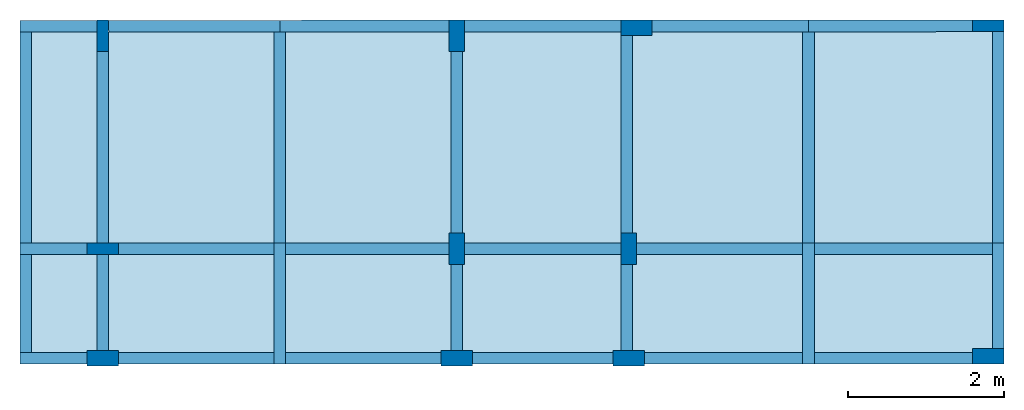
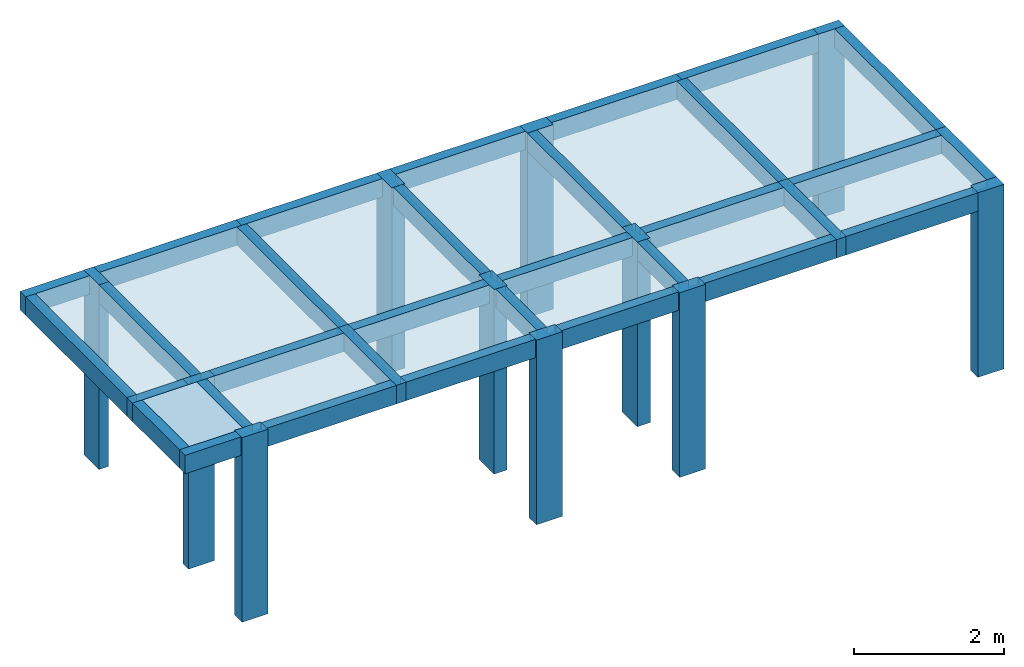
# One storey: 32 beams, 12 slabs, 11 columns.
"""IFC2X3 building model written with IfcOpenShell, lengths in centimetres."""

from ifc_helpers import new_model, si_unit, derived_unit, frame, origin, origin_with_axes, origin_2d_with_axis, place, context, project, spatial, polyline, rectangle, outline, extrude, material, element, save


model = new_model("IFC2X3")

# Units and contexts
model_context = context("Model", 3, precision=1e-05, world=origin_with_axes(), identifier="Body")
ifc_project = project(units=[si_unit("LENGTHUNIT", "METRE", prefix="CENTI"), si_unit("VOLUMEUNIT", "CUBIC_METRE"), si_unit("AREAUNIT", "SQUARE_METRE"), si_unit("POWERUNIT", "WATT"), si_unit("LUMINOUSFLUXUNIT", "LUMEN"), si_unit("ELECTRICCURRENTUNIT", "AMPERE"), si_unit("PRESSUREUNIT", "PASCAL", prefix="KILO"), si_unit("MASSUNIT", "GRAM", prefix="KILO"), si_unit("PLANEANGLEUNIT", "RADIAN"), derived_unit("VOLUMETRICFLOWRATEUNIT", [(si_unit("LENGTHUNIT", "METRE"), 3), (si_unit("TIMEUNIT", "SECOND"), -1)])], contexts=[model_context])

# Site, building, storey
site_placement = place(None, origin_with_axes())
site = spatial("IfcSite", under=ifc_project, at=site_placement)
building_placement = place(site_placement, origin())
building = spatial("IfcBuilding", under=site, at=building_placement)
placement_1 = place(building_placement, origin_with_axes())
placement_2 = place(placement_1, frame((0.0, 0.0, 80.0), z_axis=(0.0, 0.0, 1.0), x_axis=(1.0, 0.0, 0.0)))
placement_3 = place(placement_2, frame((0.0, 0.0, 320.0), z_axis=(0.0, 0.0, 1.0), x_axis=(1.0, 0.0, 0.0)))
placement_4 = place(placement_3, frame((0.0, 0.0, 320.0), z_axis=(0.0, 0.0, 1.0), x_axis=(1.0, 0.0, 0.0)))
placement_5 = place(placement_4, frame((0.0, 0.0, 300.0), z_axis=(0.0, 0.0, 1.0), x_axis=(1.0, 0.0, 0.0)))
storey_placement = place(placement_5, frame((0.0, 0.0, 300.0), z_axis=(0.0, 0.0, 1.0), x_axis=(1.0, 0.0, 0.0)))
storey = spatial("IfcBuildingStorey", under=building, at=storey_placement, Name="06. Laje do Pavimento Técnico", CompositionType="ELEMENT", Elevation=1320.0)

# Columns
ifc_material = material(Name="Concreto")
column_1_placement = place(storey_placement, frame((-897.96, -566.61, 0.0), z_axis=(0.0, 0.0, 1.0), x_axis=(1.0, 0.0, 0.0)))
element("IfcColumn", 1, at=column_1_placement, inside=storey, material=ifc_material, Name="P19", context=model_context, shape_type="SolidModel", body=[
    extrude(rectangle(XDim=15.0, YDim=40.0, at=origin_2d_with_axis()), frame((0.0, 0.0, 0.0), z_axis=(0.0, 0.0, 1.0), x_axis=(0.0, -1.0, 0.0)), (0.0, 0.0, -1.0), 300.0),
])
for number, where, z_axis, x_axis, name in (
    (2, (-445.46, -566.61, 0.0), (0.0, 0.0, 1.0), (1.0, 0.0, 0.0), "P20"),
    (3, (-225.46, -566.61, 0.0), (0.0, 0.0, 1.0), (1.0, 0.0, 0.0), "P21"),
):
    element("IfcColumn", number, at=place(storey_placement, frame(where, z_axis=z_axis, x_axis=x_axis)), inside=storey, material=ifc_material, Name=name, context=model_context, shape_type="SolidModel", body=[
        extrude(rectangle(XDim=20.0, YDim=40.0, at=origin_2d_with_axis()), origin_with_axes(), (0.0, 0.0, -1.0), 300.0),
    ])
for number, where, z_axis, x_axis, name in (
    (4, (-897.96, -706.61, 0.0), (0.0, 0.0, 1.0), (1.0, 0.0, 0.0), "P24"),
    (5, (-445.46, -706.61, 0.0), (0.0, 0.0, 1.0), (1.0, 0.0, 0.0), "P25"),
    (6, (-225.46, -706.61, 0.0), (0.0, 0.0, 1.0), (1.0, 0.0, 0.0), "P26"),
    (7, (234.54, -704.11, 0.0), (0.0, 0.0, 1.0), (1.0, 0.0, 0.0), "P27"),
):
    element("IfcColumn", number, at=place(storey_placement, frame(where, z_axis=z_axis, x_axis=x_axis)), inside=storey, material=ifc_material, Name=name, context=model_context, shape_type="SolidModel", body=[
        extrude(rectangle(XDim=20.0, YDim=40.0, at=origin_2d_with_axis()), frame((0.0, 0.0, 0.0), z_axis=(0.0, 0.0, 1.0), x_axis=(0.0, -1.0, 0.0)), (0.0, 0.0, -1.0), 300.0),
    ])
column_2_placement = place(storey_placement, frame((-897.96, -294.11, 0.0), z_axis=(0.0, 0.0, 1.0), x_axis=(1.0, 0.0, 0.0)))
element("IfcColumn", 8, at=column_2_placement, inside=storey, material=ifc_material, Name="P4", context=model_context, shape_type="SolidModel", body=[
    extrude(rectangle(XDim=15.0, YDim=40.0, at=origin_2d_with_axis()), origin_with_axes(), (0.0, 0.0, -1.0), 300.0),
])
column_3_placement = place(storey_placement, frame((-445.46, -294.11, 0.0), z_axis=(0.0, 0.0, 1.0), x_axis=(1.0, 0.0, 0.0)))
element("IfcColumn", 9, at=column_3_placement, inside=storey, material=ifc_material, Name="P5", context=model_context, shape_type="SolidModel", body=[
    extrude(rectangle(XDim=20.0, YDim=40.0, at=origin_2d_with_axis()), origin_with_axes(), (0.0, 0.0, -1.0), 300.0),
])
column_4_placement = place(storey_placement, frame((-215.46, -284.11, 0.0), z_axis=(0.0, 0.0, 1.0), x_axis=(1.0, 0.0, 0.0)))
element("IfcColumn", 10, at=column_4_placement, inside=storey, material=ifc_material, Name="P6", context=model_context, shape_type="SolidModel", body=[
    extrude(rectangle(XDim=20.0, YDim=40.0, at=origin_2d_with_axis()), frame((0.0, 0.0, 0.0), z_axis=(0.0, 0.0, 1.0), x_axis=(0.0, -1.0, 0.0)), (0.0, 0.0, -1.0), 300.0),
])
column_5_placement = place(storey_placement, frame((234.54, -281.61, 0.0), z_axis=(0.0, 0.0, 1.0), x_axis=(1.0, 0.0, 0.0)))
element("IfcColumn", 11, at=column_5_placement, inside=storey, material=ifc_material, Name="P7", context=model_context, shape_type="SolidModel", body=[
    extrude(rectangle(XDim=15.0, YDim=40.0, at=origin_2d_with_axis()), frame((0.0, 0.0, 0.0), z_axis=(0.0, 0.0, 1.0), x_axis=(0.0, -1.0, 0.0)), (0.0, 0.0, -1.0), 300.0),
])

# Beams
beam_1_placement = place(storey_placement, frame((-95.45994196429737, -281.735, 0.0), z_axis=(0.0, 0.0, 1.0), x_axis=(1.0, 0.0, 0.0)))
element("IfcBeam", 12, at=beam_1_placement, inside=storey, material=ifc_material, Name="V1", context=model_context, shape_type="SolidModel", body=[
    extrude(rectangle(XDim=15.0, YDim=30.0, at=origin_2d_with_axis()), frame((-100.00005803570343, -0.035000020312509, -15.0), z_axis=(1.0, 0.00035, 0.0), x_axis=(0.00035, -1.0, 0.0)), (0.0, 0.0, 1.0), 200.0001283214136),
])
beam_2_placement = place(storey_placement, frame((-335.46, -281.815, 0.0), z_axis=(0.0, 0.0, 1.0), x_axis=(1.0, 0.0, 0.0)))
element("IfcBeam", 13, at=beam_2_placement, inside=storey, material=ifc_material, Name="V1", context=model_context, shape_type="SolidModel", body=[
    extrude(rectangle(XDim=15.0, YDim=30.0, at=origin_2d_with_axis()), frame((-100.0, -0.035, -15.0), z_axis=(1.0, 0.00035, 0.0), x_axis=(0.00035, -1.0, 0.0)), (0.0, 0.0, 1.0), 200.00001225),
])
beam_3_placement = place(storey_placement, frame((-563.5850079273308, -281.9, 0.0), z_axis=(0.0, 0.0, 1.0), x_axis=(1.0, 0.0, 0.0)))
element("IfcBeam", 14, at=beam_3_placement, inside=storey, material=ifc_material, Name="V1", context=model_context, shape_type="SolidModel", body=[
    extrude(rectangle(XDim=15.0, YDim=30.0, at=origin_2d_with_axis()), frame((-108.12500792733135, -0.04, -15.0), z_axis=(1.0, 0.000369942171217, 0.0), x_axis=(0.000369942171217, -1.0, 0.0)), (0.0, 0.0, 1.0), 216.2500306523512),
])
beam_4_placement = place(storey_placement, frame((-781.0849920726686, -281.98, 0.0), z_axis=(0.0, 0.0, 1.0), x_axis=(1.0, 0.0, 0.0)))
element("IfcBeam", 15, at=beam_4_placement, inside=storey, material=ifc_material, Name="V1", context=model_context, shape_type="SolidModel", body=[
    extrude(rectangle(XDim=15.0, YDim=30.0, at=origin_2d_with_axis()), frame((-109.37500792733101, -0.04, -15.0), z_axis=(1.0, 0.000365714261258, 0.0), x_axis=(0.000365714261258, -1.0, 0.0)), (0.0, 0.0, 1.0), 218.75003048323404),
])
beam_5_placement = place(storey_placement, frame((-954.7116483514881, -282.04164907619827, 0.0), z_axis=(0.0, 0.0, 1.0), x_axis=(1.0, 0.0, 0.0)))
element("IfcBeam", 16, at=beam_5_placement, inside=storey, material=ifc_material, Name="V1", context=model_context, shape_type="SolidModel", body=[
    extrude(rectangle(XDim=15.0, YDim=30.0, at=origin_2d_with_axis()), frame((-49.2516483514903, -0.021649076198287, -15.0), z_axis=(1.0, 0.000439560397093, 0.0), x_axis=(0.000439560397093, -1.0, 0.0)), (0.0, 0.0, 1.0), 98.50330621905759),
])
beam_6_placement = place(storey_placement, frame((109.53994196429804, -281.66, 0.0), z_axis=(0.0, 0.0, 1.0), x_axis=(1.0, 0.0, 0.0)))
element("IfcBeam", 17, at=beam_6_placement, inside=storey, material=ifc_material, Name="V1", context=model_context, shape_type="SolidModel", body=[
    extrude(rectangle(XDim=15.0, YDim=30.0, at=origin_2d_with_axis()), frame((-105.00005803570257, -0.04, -15.0), z_axis=(1.0, 0.00038095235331, 0.0), x_axis=(0.00038095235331, -1.0, 0.0)), (0.0, 0.0, 1.0), 210.00013130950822),
])
beam_7_placement = place(storey_placement, frame((247.04, -626.61, 0.0), z_axis=(0.0, 0.0, 1.0), x_axis=(1.0, 0.0, 0.0)))
element("IfcBeam", 18, at=beam_7_placement, inside=storey, material=ifc_material, Name="V10", context=model_context, shape_type="SolidModel", body=[
    extrude(rectangle(XDim=15.0, YDim=30.0, at=origin_2d_with_axis()), frame((0.0, -67.5, -15.0), z_axis=(0.0, 1.0, 0.0), x_axis=(1.0, 0.0, 0.0)), (0.0, 0.0, 1.0), 135.0),
])
beam_8_placement = place(storey_placement, frame((247.04, -427.86, 0.0), z_axis=(0.0, 0.0, 1.0), x_axis=(1.0, 0.0, 0.0)))
element("IfcBeam", 19, at=beam_8_placement, inside=storey, material=ifc_material, Name="V10", context=model_context, shape_type="SolidModel", body=[
    extrude(rectangle(XDim=15.0, YDim=30.0, at=origin_2d_with_axis()), frame((0.0, -138.75, -15.0), z_axis=(0.0, 1.0, 0.0), x_axis=(1.0, 0.0, 0.0)), (0.0, 0.0, 1.0), 277.5),
])
beam_9_placement = place(storey_placement, frame((-778.585, -566.61, 0.0), z_axis=(0.0, 0.0, 1.0), x_axis=(1.0, 0.0, 0.0)))
element("IfcBeam", 20, at=beam_9_placement, inside=storey, material=ifc_material, Name="V2", context=model_context, shape_type="SolidModel", body=[
    extrude(rectangle(XDim=15.0, YDim=30.0, at=origin_2d_with_axis()), frame((-99.375, 0.0, -15.0), z_axis=(1.0, 0.0, 0.0), x_axis=(0.0, -1.0, 0.0)), (0.0, 0.0, 1.0), 198.75),
])
beam_10_placement = place(storey_placement, frame((-563.585, -566.61, 0.0), z_axis=(0.0, 0.0, 1.0), x_axis=(1.0, 0.0, 0.0)))
element("IfcBeam", 21, at=beam_10_placement, inside=storey, material=ifc_material, Name="V2", context=model_context, shape_type="SolidModel", body=[
    extrude(rectangle(XDim=15.0, YDim=30.0, at=origin_2d_with_axis()), frame((-108.125, 0.0, -15.0), z_axis=(1.0, 0.0, 0.0), x_axis=(0.0, -1.0, 0.0)), (0.0, 0.0, 1.0), 216.25),
])
beam_11_placement = place(storey_placement, frame((-960.96, -566.61, 0.0), z_axis=(0.0, 0.0, 1.0), x_axis=(1.0, 0.0, 0.0)))
element("IfcBeam", 22, at=beam_11_placement, inside=storey, material=ifc_material, Name="V2", context=model_context, shape_type="SolidModel", body=[
    extrude(rectangle(XDim=15.0, YDim=30.0, at=origin_2d_with_axis()), frame((-43.0, 0.0, -15.0), z_axis=(1.0, 0.0, 0.0), x_axis=(0.0, -1.0, 0.0)), (0.0, 0.0, 1.0), 86.0),
])
beam_12_placement = place(storey_placement, frame((122.04, -566.61, 0.0), z_axis=(0.0, 0.0, 1.0), x_axis=(1.0, 0.0, 0.0)))
element("IfcBeam", 23, at=beam_12_placement, inside=storey, material=ifc_material, Name="V2", context=model_context, shape_type="SolidModel", body=[
    extrude(rectangle(XDim=15.0, YDim=30.0, at=origin_2d_with_axis()), frame((-117.5, 0.0, -15.0), z_axis=(1.0, 0.0, 0.0), x_axis=(0.0, -1.0, 0.0)), (0.0, 0.0, 1.0), 235.0),
])
beam_13_placement = place(storey_placement, frame((-335.46, -566.61, 0.0), z_axis=(0.0, 0.0, 1.0), x_axis=(1.0, 0.0, 0.0)))
element("IfcBeam", 24, at=beam_13_placement, inside=storey, material=ifc_material, Name="V2", context=model_context, shape_type="SolidModel", body=[
    extrude(rectangle(XDim=15.0, YDim=30.0, at=origin_2d_with_axis()), frame((-100.0, 0.0, -15.0), z_axis=(1.0, 0.0, 0.0), x_axis=(0.0, -1.0, 0.0)), (0.0, 0.0, 1.0), 200.0),
])
beam_14_placement = place(storey_placement, frame((-109.21, -566.61, 0.0), z_axis=(0.0, 0.0, 1.0), x_axis=(1.0, 0.0, 0.0)))
element("IfcBeam", 25, at=beam_14_placement, inside=storey, material=ifc_material, Name="V2", context=model_context, shape_type="SolidModel", body=[
    extrude(rectangle(XDim=15.0, YDim=30.0, at=origin_2d_with_axis()), frame((-106.25, 0.0, -15.0), z_axis=(1.0, 0.0, 0.0), x_axis=(0.0, -1.0, 0.0)), (0.0, 0.0, 1.0), 212.5),
])
beam_15_placement = place(storey_placement, frame((109.54, -706.61, 0.0), z_axis=(0.0, 0.0, 1.0), x_axis=(1.0, 0.0, 0.0)))
element("IfcBeam", 26, at=beam_15_placement, inside=storey, material=ifc_material, Name="V3", context=model_context, shape_type="SolidModel", body=[
    extrude(rectangle(XDim=15.0, YDim=30.0, at=origin_2d_with_axis()), frame((-105.0, 0.0, -15.0), z_axis=(1.0, 0.0, 0.0), x_axis=(0.0, -1.0, 0.0)), (0.0, 0.0, 1.0), 210.0),
])
beam_16_placement = place(storey_placement, frame((-104.21, -706.61, 0.0), z_axis=(0.0, 0.0, 1.0), x_axis=(1.0, 0.0, 0.0)))
element("IfcBeam", 27, at=beam_16_placement, inside=storey, material=ifc_material, Name="V3", context=model_context, shape_type="SolidModel", body=[
    extrude(rectangle(XDim=15.0, YDim=30.0, at=origin_2d_with_axis()), frame((-101.25, 0.0, -15.0), z_axis=(1.0, 0.0, 0.0), x_axis=(0.0, -1.0, 0.0)), (0.0, 0.0, 1.0), 202.5),
])
beam_17_placement = place(storey_placement, frame((-778.585, -706.61, 0.0), z_axis=(0.0, 0.0, 1.0), x_axis=(1.0, 0.0, 0.0)))
element("IfcBeam", 28, at=beam_17_placement, inside=storey, material=ifc_material, Name="V3", context=model_context, shape_type="SolidModel", body=[
    extrude(rectangle(XDim=15.0, YDim=30.0, at=origin_2d_with_axis()), frame((-99.375, 0.0, -15.0), z_axis=(1.0, 0.0, 0.0), x_axis=(0.0, -1.0, 0.0)), (0.0, 0.0, 1.0), 198.75),
])
beam_18_placement = place(storey_placement, frame((-960.96, -706.61, 0.0), z_axis=(0.0, 0.0, 1.0), x_axis=(1.0, 0.0, 0.0)))
element("IfcBeam", 29, at=beam_18_placement, inside=storey, material=ifc_material, Name="V3", context=model_context, shape_type="SolidModel", body=[
    extrude(rectangle(XDim=15.0, YDim=30.0, at=origin_2d_with_axis()), frame((-43.0, 0.0, -15.0), z_axis=(1.0, 0.0, 0.0), x_axis=(0.0, -1.0, 0.0)), (0.0, 0.0, 1.0), 86.0),
])
beam_19_placement = place(storey_placement, frame((-335.46, -706.61, 0.0), z_axis=(0.0, 0.0, 1.0), x_axis=(1.0, 0.0, 0.0)))
element("IfcBeam", 30, at=beam_19_placement, inside=storey, material=ifc_material, Name="V3", context=model_context, shape_type="SolidModel", body=[
    extrude(rectangle(XDim=15.0, YDim=30.0, at=origin_2d_with_axis()), frame((-90.0, 0.0, -15.0), z_axis=(1.0, 0.0, 0.0), x_axis=(0.0, -1.0, 0.0)), (0.0, 0.0, 1.0), 180.0),
])
beam_20_placement = place(storey_placement, frame((-568.585, -706.61, 0.0), z_axis=(0.0, 0.0, 1.0), x_axis=(1.0, 0.0, 0.0)))
element("IfcBeam", 31, at=beam_20_placement, inside=storey, material=ifc_material, Name="V3", context=model_context, shape_type="SolidModel", body=[
    extrude(rectangle(XDim=15.0, YDim=30.0, at=origin_2d_with_axis()), frame((-103.125, 0.0, -15.0), z_axis=(1.0, 0.0, 0.0), x_axis=(0.0, -1.0, 0.0)), (0.0, 0.0, 1.0), 206.25),
])
beam_21_placement = place(storey_placement, frame((-996.46, -636.61, 0.0), z_axis=(0.0, 0.0, 1.0), x_axis=(1.0, 0.0, 0.0)))
element("IfcBeam", 32, at=beam_21_placement, inside=storey, material=ifc_material, Name="V4", context=model_context, shape_type="SolidModel", body=[
    extrude(rectangle(XDim=15.0, YDim=30.0, at=origin_2d_with_axis()), frame((0.0, -62.5, -15.0), z_axis=(0.0, 1.0, 0.0), x_axis=(-1.0, 0.0, 0.0)), (0.0, 0.0, 1.0), 125.0),
])
beam_22_placement = place(storey_placement, frame((-996.46, -428.083352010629, 0.0), z_axis=(0.0, 0.0, 1.0), x_axis=(1.0, 0.0, 0.0)))
element("IfcBeam", 33, at=beam_22_placement, inside=storey, material=ifc_material, Name="V4", context=model_context, shape_type="SolidModel", body=[
    extrude(rectangle(XDim=15.0, YDim=30.0, at=origin_2d_with_axis()), frame((0.0, -138.52664798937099, -15.0), z_axis=(0.0, 1.0, 0.0), x_axis=(-1.0, 0.0, 0.0)), (0.0, 0.0, 1.0), 277.05329597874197),
])
beam_23_placement = place(storey_placement, frame((-897.96, -436.61, 0.0), z_axis=(0.0, 0.0, 1.0), x_axis=(1.0, 0.0, 0.0)))
element("IfcBeam", 34, at=beam_23_placement, inside=storey, material=ifc_material, Name="V5", context=model_context, shape_type="SolidModel", body=[
    extrude(rectangle(XDim=15.0, YDim=30.0, at=origin_2d_with_axis()), frame((0.0, -122.5, -15.0), z_axis=(0.0, 1.0, 0.0), x_axis=(-1.0, 0.0, 0.0)), (0.0, 0.0, 1.0), 245.0),
])
beam_24_placement = place(storey_placement, frame((-897.96, -635.36, 0.0), z_axis=(0.0, 0.0, 1.0), x_axis=(1.0, 0.0, 0.0)))
element("IfcBeam", 35, at=beam_24_placement, inside=storey, material=ifc_material, Name="V5", context=model_context, shape_type="SolidModel", body=[
    extrude(rectangle(XDim=15.0, YDim=30.0, at=origin_2d_with_axis()), frame((0.0, -61.25, -15.0), z_axis=(0.0, 1.0, 0.0), x_axis=(-1.0, 0.0, 0.0)), (0.0, 0.0, 1.0), 122.5),
])
beam_25_placement = place(storey_placement, frame((-671.71, -636.61, 0.0), z_axis=(0.0, 0.0, 1.0), x_axis=(1.0, 0.0, 0.0)))
element("IfcBeam", 36, at=beam_25_placement, inside=storey, material=ifc_material, Name="V6", context=model_context, shape_type="SolidModel", body=[
    extrude(rectangle(XDim=15.0, YDim=30.0, at=origin_2d_with_axis()), frame((0.0, -77.5, -15.0), z_axis=(0.0, 1.0, 0.0), x_axis=(-1.0, 0.0, 0.0)), (0.0, 0.0, 1.0), 155.0),
])
beam_26_placement = place(storey_placement, frame((-671.71, -424.275, 0.0), z_axis=(0.0, 0.0, 1.0), x_axis=(1.0, 0.0, 0.0)))
element("IfcBeam", 37, at=beam_26_placement, inside=storey, material=ifc_material, Name="V6", context=model_context, shape_type="SolidModel", body=[
    extrude(rectangle(XDim=15.0, YDim=30.0, at=origin_2d_with_axis()), frame((0.0, -142.335, -15.0), z_axis=(0.0, 1.0, 0.0), x_axis=(-1.0, 0.0, 0.0)), (0.0, 0.0, 1.0), 284.67),
])
beam_27_placement = place(storey_placement, frame((-445.46, -430.36, 0.0), z_axis=(0.0, 0.0, 1.0), x_axis=(1.0, 0.0, 0.0)))
element("IfcBeam", 38, at=beam_27_placement, inside=storey, material=ifc_material, Name="V7", context=model_context, shape_type="SolidModel", body=[
    extrude(rectangle(XDim=15.0, YDim=30.0, at=origin_2d_with_axis()), frame((0.0, -116.25, -15.0), z_axis=(0.0, 1.0, 0.0), x_axis=(-1.0, 0.0, 0.0)), (0.0, 0.0, 1.0), 232.5),
])
beam_28_placement = place(storey_placement, frame((-445.46, -641.61, 0.0), z_axis=(0.0, 0.0, 1.0), x_axis=(1.0, 0.0, 0.0)))
element("IfcBeam", 39, at=beam_28_placement, inside=storey, material=ifc_material, Name="V7", context=model_context, shape_type="SolidModel", body=[
    extrude(rectangle(XDim=15.0, YDim=30.0, at=origin_2d_with_axis()), frame((0.0, -55.0, -15.0), z_axis=(0.0, 1.0, 0.0), x_axis=(-1.0, 0.0, 0.0)), (0.0, 0.0, 1.0), 110.0),
])
beam_29_placement = place(storey_placement, frame((-227.96, -420.36, 0.0), z_axis=(0.0, 0.0, 1.0), x_axis=(1.0, 0.0, 0.0)))
element("IfcBeam", 40, at=beam_29_placement, inside=storey, material=ifc_material, Name="V8", context=model_context, shape_type="SolidModel", body=[
    extrude(rectangle(XDim=15.0, YDim=30.0, at=origin_2d_with_axis()), frame((0.0, -126.25, -15.0), z_axis=(0.0, 1.0, 0.0), x_axis=(1.0, 0.0, 0.0)), (0.0, 0.0, 1.0), 252.5),
])
beam_30_placement = place(storey_placement, frame((-227.96, -641.61, 0.0), z_axis=(0.0, 0.0, 1.0), x_axis=(1.0, 0.0, 0.0)))
element("IfcBeam", 41, at=beam_30_placement, inside=storey, material=ifc_material, Name="V8", context=model_context, shape_type="SolidModel", body=[
    extrude(rectangle(XDim=15.0, YDim=30.0, at=origin_2d_with_axis()), frame((0.0, -55.0, -15.0), z_axis=(0.0, 1.0, 0.0), x_axis=(1.0, 0.0, 0.0)), (0.0, 0.0, 1.0), 110.0),
])
beam_31_placement = place(storey_placement, frame((4.54, -424.155, 0.0), z_axis=(0.0, 0.0, 1.0), x_axis=(1.0, 0.0, 0.0)))
element("IfcBeam", 42, at=beam_31_placement, inside=storey, material=ifc_material, Name="V9", context=model_context, shape_type="SolidModel", body=[
    extrude(rectangle(XDim=15.0, YDim=30.0, at=origin_2d_with_axis()), frame((0.0, -142.455, -15.0), z_axis=(0.0, 1.0, 0.0), x_axis=(1.0, 0.0, 0.0)), (0.0, 0.0, 1.0), 284.91),
])
beam_32_placement = place(storey_placement, frame((4.54, -636.61, 0.0), z_axis=(0.0, 0.0, 1.0), x_axis=(1.0, 0.0, 0.0)))
element("IfcBeam", 43, at=beam_32_placement, inside=storey, material=ifc_material, Name="V9", context=model_context, shape_type="SolidModel", body=[
    extrude(rectangle(XDim=15.0, YDim=30.0, at=origin_2d_with_axis()), frame((0.0, -77.5, -15.0), z_axis=(0.0, 1.0, 0.0), x_axis=(1.0, 0.0, 0.0)), (0.0, 0.0, 1.0), 155.0),
])

# Slabs
slab_1_placement = place(storey_placement, frame((-947.21, -424.316, 0.0), z_axis=(0.0, 0.0, 1.0), x_axis=(1.0, 0.0, 0.0)))
element("IfcSlab", 44, at=slab_1_placement, inside=storey, material=ifc_material, Name="L1", PredefinedType="FLOOR", context=model_context, shape_type="SolidModel", body=[
    extrude(outline(polyline([(41.749, -134.79336170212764), (41.75, 134.7936382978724), (-41.75, 134.75863829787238), (-41.749, -134.79436170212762), (41.749, -134.79336170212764), (41.749, -134.79336170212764)])), frame((0.0, 0.000361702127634, -12.0), z_axis=(0.0, 0.0, 1.0), x_axis=(1.0, 0.0, 0.0)), (0.0, 0.0, 1.0), 12.0),
])
slab_2_placement = place(storey_placement, frame((-336.7095, -636.61, 0.0), z_axis=(0.0, 0.0, 1.0), x_axis=(1.0, 0.0, 0.0)))
element("IfcSlab", 45, at=slab_2_placement, inside=storey, material=ifc_material, Name="L10", PredefinedType="FLOOR", context=model_context, shape_type="SolidModel", body=[
    extrude(outline(polyline([(91.249, -60.0), (101.249, -59.999), (101.25, 62.5), (-98.749, 62.499), (-98.749, 49.999), (-101.249, 50.0), (-101.249, -60.0), (-88.749, -60.0), (-88.749, -62.5), (91.25, -62.5), (91.249, -60.0), (91.249, -60.0)])), frame((-0.0005, 0.0, -12.0), z_axis=(0.0, 0.0, 1.0), x_axis=(1.0, 0.0, 0.0)), (0.0, 0.0, 1.0), 12.0),
])
slab_3_placement = place(storey_placement, frame((-111.71, -636.6105, 0.0), z_axis=(0.0, 0.0, 1.0), x_axis=(1.0, 0.0, 0.0)))
element("IfcSlab", 46, at=slab_3_placement, inside=storey, material=ifc_material, Name="L11", PredefinedType="FLOOR", context=model_context, shape_type="SolidModel", body=[
    extrude(outline(polyline([(108.75, 62.499), (-103.749, 62.499), (-103.75, 49.999), (-108.75, 50.0), (-108.75, -59.999), (-93.75, -60.0), (-93.75, -62.5), (108.75, -62.5), (108.75, 62.499), (108.75, 62.499)])), frame((0.0, 0.0005, -12.0), z_axis=(0.0, 0.0, 1.0), x_axis=(1.0, 0.0, 0.0)), (0.0, 0.0, 1.0), 12.0),
])
slab_4_placement = place(storey_placement, frame((125.79, -636.6105, 0.0), z_axis=(0.0, 0.0, 1.0), x_axis=(1.0, 0.0, 0.0)))
element("IfcSlab", 47, at=slab_4_placement, inside=storey, material=ifc_material, Name="L12", PredefinedType="FLOOR", context=model_context, shape_type="SolidModel", body=[
    extrude(outline(polyline([(88.749, -57.5), (113.75, -57.5), (113.75, 62.499), (-113.75, 62.499), (-113.75, -62.5), (88.75, -62.5), (88.749, -57.5), (88.749, -57.5)])), frame((0.0, 0.0005, -12.0), z_axis=(0.0, 0.0, 1.0), x_axis=(1.0, 0.0, 0.0)), (0.0, 0.0, 1.0), 12.0),
])
slab_5_placement = place(storey_placement, frame((-784.835, -424.2765, 0.0), z_axis=(0.0, 0.0, 1.0), x_axis=(1.0, 0.0, 0.0)))
element("IfcSlab", 48, at=slab_5_placement, inside=storey, material=ifc_material, Name="L2", PredefinedType="FLOOR", context=model_context, shape_type="SolidModel", body=[
    extrude(outline(polyline([(105.625, 134.8333528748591), (-105.625, 134.75735287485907), (-105.625, -134.83264712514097), (105.625, -134.83364712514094), (105.625, 134.8333528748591), (105.625, 134.8333528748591)])), frame((0.0, 0.000147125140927, -12.0), z_axis=(0.0, 0.0, 1.0), x_axis=(1.0, 0.0, 0.0)), (0.0, 0.0, 1.0), 12.0),
])
slab_6_placement = place(storey_placement, frame((-558.585, -424.236, 0.0), z_axis=(0.0, 0.0, 1.0), x_axis=(1.0, 0.0, 0.0)))
element("IfcSlab", 49, at=slab_6_placement, inside=storey, material=ifc_material, Name="L3", PredefinedType="FLOOR", context=model_context, shape_type="SolidModel", body=[
    extrude(outline(polyline([(103.125, -122.37445267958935), (105.624, -122.37345267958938), (105.625, 110.12454732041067), (103.125, 110.12454732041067), (103.124, 134.8735473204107), (-105.625, 134.79754732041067), (-105.625, -134.87445267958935), (103.125, -134.87445267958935), (103.125, -122.37445267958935), (103.125, -122.37445267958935)])), frame((0.0, 0.00045267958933, -12.0), z_axis=(0.0, 0.0, 1.0), x_axis=(1.0, 0.0, 0.0)), (0.0, 0.0, 1.0), 12.0),
])
slab_7_placement = place(storey_placement, frame((-336.71, -424.196, 0.0), z_axis=(0.0, 0.0, 1.0), x_axis=(1.0, 0.0, 0.0)))
element("IfcSlab", 50, at=slab_7_placement, inside=storey, material=ifc_material, Name="L4", PredefinedType="FLOOR", context=model_context, shape_type="SolidModel", body=[
    extrude(outline(polyline([(101.25, -134.91449029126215), (101.25, 134.91350970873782), (-98.749, 134.84650970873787), (-98.749, 110.08450970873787), (-101.25, 110.08450970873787), (-101.25, -122.41349029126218), (-98.749, -122.41449029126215), (-98.75, -134.91449029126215), (101.25, -134.91449029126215), (101.25, -134.91449029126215)])), frame((0.0, 0.000490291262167, -12.0), z_axis=(0.0, 0.0, 1.0), x_axis=(1.0, 0.0, 0.0)), (0.0, 0.0, 1.0), 12.0),
])
slab_8_placement = place(storey_placement, frame((-111.7095, -424.1565, 0.0), z_axis=(0.0, 0.0, 1.0), x_axis=(1.0, 0.0, 0.0)))
element("IfcSlab", 51, at=slab_8_placement, inside=storey, material=ifc_material, Name="L5", PredefinedType="FLOOR", context=model_context, shape_type="SolidModel", body=[
    extrude(outline(polyline([(108.75, 134.9532931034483), (-83.749, 134.88729310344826), (-83.75, 130.04529310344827), (-108.749, 130.04629310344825), (-108.749, -122.45270689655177), (-103.75, -122.45370689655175), (-103.75, -134.95370689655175), (108.75, -134.95370689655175), (108.75, 134.9532931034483), (108.75, 134.9532931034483)])), frame((-0.0005, 0.000206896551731, -12.0), z_axis=(0.0, 0.0, 1.0), x_axis=(1.0, 0.0, 0.0)), (0.0, 0.0, 1.0), 12.0),
])
slab_9_placement = place(storey_placement, frame((125.79, -424.11, 0.0), z_axis=(0.0, 0.0, 1.0), x_axis=(1.0, 0.0, 0.0)))
element("IfcSlab", 52, at=slab_9_placement, inside=storey, material=ifc_material, Name="L6", PredefinedType="FLOOR", context=model_context, shape_type="SolidModel", body=[
    extrude(outline(polyline([(113.75, 135.0), (88.749, 135.0), (-113.75, 134.913), (-113.75, -135.0), (113.75, -135.0), (113.75, 135.0), (113.75, 135.0)])), frame((0.0, 0.0, -12.0), z_axis=(0.0, 0.0, 1.0), x_axis=(1.0, 0.0, 0.0)), (0.0, 0.0, 1.0), 12.0),
])
slab_10_placement = place(storey_placement, frame((-947.21, -636.6105, 0.0), z_axis=(0.0, 0.0, 1.0), x_axis=(1.0, 0.0, 0.0)))
element("IfcSlab", 53, at=slab_10_placement, inside=storey, material=ifc_material, Name="L7", PredefinedType="FLOOR", context=model_context, shape_type="SolidModel", body=[
    extrude(outline(polyline([(29.249, -60.0), (41.75, -60.0), (41.75, 62.499), (-41.75, 62.499), (-41.75, -62.499), (29.249, -62.5), (29.249, -60.0), (29.249, -60.0)])), frame((0.0, 0.0005, -12.0), z_axis=(0.0, 0.0, 1.0), x_axis=(1.0, 0.0, 0.0)), (0.0, 0.0, 1.0), 12.0),
])
slab_11_placement = place(storey_placement, frame((-784.835, -636.6105, 0.0), z_axis=(0.0, 0.0, 1.0), x_axis=(1.0, 0.0, 0.0)))
element("IfcSlab", 54, at=slab_11_placement, inside=storey, material=ifc_material, Name="L8", PredefinedType="FLOOR", context=model_context, shape_type="SolidModel", body=[
    extrude(outline(polyline([(105.624, 62.499), (-105.624, 62.499), (-105.624, -60.0), (-93.125, -60.0), (-93.124, -62.5), (105.624, -62.5), (105.624, 62.499), (105.624, 62.499)])), frame((0.0, 0.0005, -12.0), z_axis=(0.0, 0.0, 1.0), x_axis=(1.0, 0.0, 0.0)), (0.0, 0.0, 1.0), 12.0),
])
slab_12_placement = place(storey_placement, frame((-558.5845, -636.61, 0.0), z_axis=(0.0, 0.0, 1.0), x_axis=(1.0, 0.0, 0.0)))
element("IfcSlab", 55, at=slab_12_placement, inside=storey, material=ifc_material, Name="L9", PredefinedType="FLOOR", context=model_context, shape_type="SolidModel", body=[
    extrude(outline(polyline([(93.125, -60.0), (105.625, -60.0), (105.625, 50.0), (103.125, 49.999), (103.125, 62.5), (-105.624, 62.499), (-105.624, -62.499), (93.124, -62.5), (93.125, -60.0), (93.125, -60.0)])), frame((-0.0005, 0.0, -12.0), z_axis=(0.0, 0.0, 1.0), x_axis=(1.0, 0.0, 0.0)), (0.0, 0.0, 1.0), 12.0),
])

save(model, "model.ifc")
